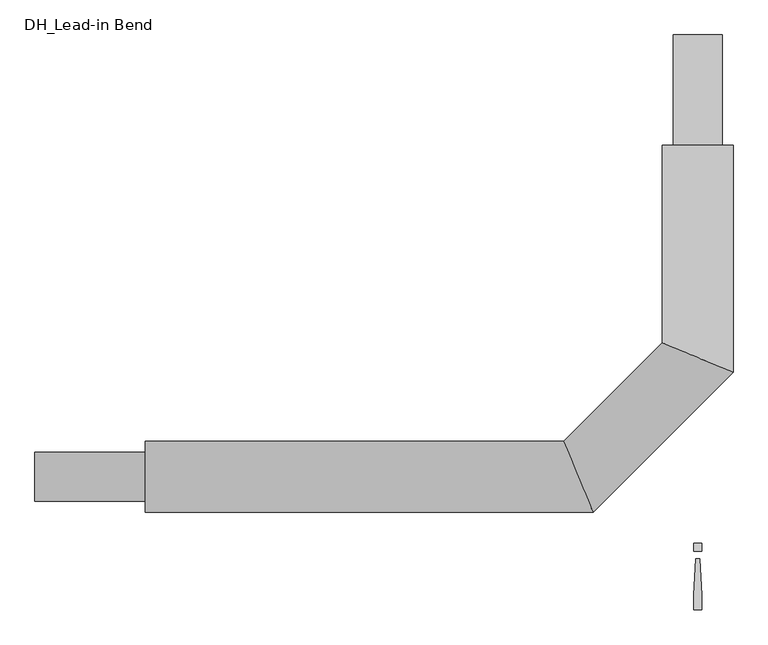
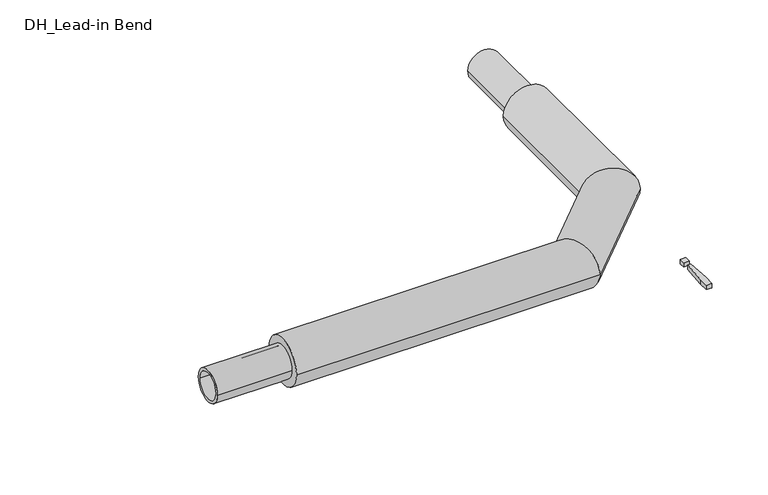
"""IFC4 building model written with IfcOpenShell, lengths in millimetres: pipe fitting geometry, DH_Lead-in Bend : INSULPEX UNO 11 Heating."""

import ifcopenshell
import ifcopenshell.guid

model = None  # the IFC model being written
_history = None  # IfcOwnerHistory: only IFC2X3 demands one
_inside = {}  # id of a spatial element -> (the spatial element, [elements in it])
_under = {}  # id of a project, library or spatial element -> (it, [spatial elements below it])
_declared = {}  # id of a project -> (the project, [libraries it declares])
_typed = {}  # id of a type object -> (the type object, [elements of that type])
_made_of = {}  # id of a material, layer set ... -> (it, [elements and type objects made of it])


def new_model(schema):
    """Start an empty IFC model of exactly this schema.

    Asked for "IFC4X3", IfcOpenShell would pick the latest addendum, in which some entities
    have other attributes; the version numbers below select the first issue.
    IFC2X3 requires an IfcOwnerHistory on every rooted entity: one is made here for all.
    """
    global model, _history
    if schema == "IFC4X3":
        model = ifcopenshell.file(schema_version=(4, 3, 0, 0))
    else:
        model = ifcopenshell.file(schema=schema)
    _inside.clear()
    _under.clear()
    _declared.clear()
    _typed.clear()
    _made_of.clear()
    _history = None
    if model.schema == "IFC2X3":
        org = make("IfcOrganization", Name="unknown")
        user = make(
            "IfcPersonAndOrganization",
            ThePerson=make("IfcPerson", FamilyName="unknown"),
            TheOrganization=org,
        )
        app = make(
            "IfcApplication",
            ApplicationDeveloper=org,
            Version="unknown",
            ApplicationFullName="unknown",
            ApplicationIdentifier="unknown",
        )
        _history = make(
            "IfcOwnerHistory",
            OwningUser=user,
            OwningApplication=app,
            ChangeAction="ADDED",
            CreationDate=0,
        )
    return model


def make(cls, **values):
    """One entity of the class cls with the attributes given. An attribute that is None is left unset."""
    return model.create_entity(
        cls, **{name: value for name, value in values.items() if value is not None}
    )


def rooted(cls, **values):
    """An entity with a GlobalId (a new one), such as an element, a storey or a relation."""
    return make(cls, GlobalId=ifcopenshell.guid.new(), OwnerHistory=_history, **values)


def si_unit(unit_type, name, prefix=None):
    """IfcSIUnit, for example si_unit("LENGTHUNIT", "METRE", prefix="MILLI")."""
    return make("IfcSIUnit", UnitType=unit_type, Prefix=prefix, Name=name)


def assignment(units):
    """IfcUnitAssignment: the units of a project."""
    return None if units is None else make("IfcUnitAssignment", Units=units)


def point(xyz):
    """IfcCartesianPoint."""
    return None if xyz is None else make("IfcCartesianPoint", Coordinates=xyz)


def direction(xyz):
    """IfcDirection."""
    return None if xyz is None else make("IfcDirection", DirectionRatios=xyz)


def frame(location, z_axis=None, x_axis=None):
    """IfcAxis2Placement3D, a coordinate frame: its origin and axes. An axis left out is left unset."""
    return make(
        "IfcAxis2Placement3D",
        Location=point(location),
        Axis=direction(z_axis),
        RefDirection=direction(x_axis),
    )


def frame_2d(location, x_axis=None):
    """IfcAxis2Placement2D, a coordinate frame in the plane: its origin and x axis."""
    return make(
        "IfcAxis2Placement2D", Location=point(location), RefDirection=direction(x_axis)
    )


def origin():
    """The frame at (0, 0, 0) with its axes left unset."""
    return frame((0.0, 0.0, 0.0))


def origin_with_axes():
    """The frame at (0, 0, 0) with the z axis (0, 0, 1) and the x axis (1, 0, 0) written out."""
    return frame((0.0, 0.0, 0.0), z_axis=(0.0, 0.0, 1.0), x_axis=(1.0, 0.0, 0.0))


def origin_2d():
    """The frame at (0, 0) in the plane with its x axis left unset."""
    return frame_2d((0.0, 0.0))


def place(relative_to, where):
    """IfcLocalPlacement: puts the frame where relative to a parent placement (None: the world)."""
    return make(
        "IfcLocalPlacement", PlacementRelTo=relative_to, RelativePlacement=where
    )


def context(
    kind, dimensions, precision=None, world=None, true_north=None, identifier=None
):
    """IfcGeometricRepresentationContext, for example the 3D "Model" context."""
    return make(
        "IfcGeometricRepresentationContext",
        ContextIdentifier=identifier,
        ContextType=kind,
        CoordinateSpaceDimension=dimensions,
        Precision=precision,
        WorldCoordinateSystem=world,
        TrueNorth=true_north,
    )


def project(units=None, contexts=None):
    """IfcProject with its units and contexts."""
    return rooted(
        "IfcProject",
        Name="project",
        RepresentationContexts=contexts,
        UnitsInContext=assignment(units),
    )


def spatial(cls, under=None, at=None, **own):
    """A site, building, storey or space (cls), placed at a placement, below another one or the project."""
    s = rooted(cls, ObjectPlacement=at, **own)
    if under is not None:
        _under.setdefault(under.id(), (under, []))[1].append(s)
    return s


def polyline(points):
    """IfcPolyline through the points."""
    return make("IfcPolyline", Points=[point(p) for p in points])


def circle_curve(where, radius):
    """IfcCircle in the frame where."""
    return make("IfcCircle", Position=where, Radius=radius)


def ellipse_curve(where, semi_axis1, semi_axis2):
    """IfcEllipse in the frame where."""
    return make(
        "IfcEllipse", Position=where, SemiAxis1=semi_axis1, SemiAxis2=semi_axis2
    )


def trimmed(basis, trim1, trim2, sense, master):
    """IfcTrimmedCurve: the piece of a basis curve between two trims."""
    return make(
        "IfcTrimmedCurve",
        BasisCurve=basis,
        Trim1=trim1,
        Trim2=trim2,
        SenseAgreement=sense,
        MasterRepresentation=master,
    )


def segment(curve, same_sense, transition):
    """IfcCompositeCurveSegment."""
    return make(
        "IfcCompositeCurveSegment",
        Transition=transition,
        SameSense=same_sense,
        ParentCurve=curve,
    )


def composite_curve(segments, self_intersect=None):
    """IfcCompositeCurve: segments joined end to end."""
    return make("IfcCompositeCurve", Segments=segments, SelfIntersect=self_intersect)


def outline(outer, holes=None, kind="AREA"):
    """IfcArbitraryClosedProfileDef: a profile drawn as a closed curve; with holes, ...WithVoids."""
    if holes is None:
        return make("IfcArbitraryClosedProfileDef", ProfileType=kind, OuterCurve=outer)
    return make(
        "IfcArbitraryProfileDefWithVoids",
        ProfileType=kind,
        OuterCurve=outer,
        InnerCurves=holes,
    )


def extrude(swept, where, along, depth):
    """IfcExtrudedAreaSolid: the profile swept, set in the frame where, extruded along a direction by depth."""
    return make(
        "IfcExtrudedAreaSolid",
        SweptArea=swept,
        Position=where,
        ExtrudedDirection=direction(along),
        Depth=depth,
    )


def shape(context_of_items, identifier, shape_type, items):
    """IfcShapeRepresentation: the items that make up one representation, for example the "Body"."""
    return make(
        "IfcShapeRepresentation",
        ContextOfItems=context_of_items,
        RepresentationIdentifier=identifier,
        RepresentationType=shape_type,
        Items=items,
    )


def source(mapping_origin, context_of_items, identifier, shape_type, items):
    """IfcRepresentationMap: a shape defined once, which mapped items show again and again."""
    return make(
        "IfcRepresentationMap",
        MappingOrigin=mapping_origin,
        MappedRepresentation=shape(context_of_items, identifier, shape_type, items),
    )


def transform(
    local_origin,
    x_axis=None,
    y_axis=None,
    z_axis=None,
    scale=None,
    scale2=None,
    scale3=None,
    uniform=True,
):
    """IfcCartesianTransformationOperator3D, or its non-uniform kind. x_axis, y_axis, z_axis: its Axis1, 2, 3."""
    if uniform:
        return make(
            "IfcCartesianTransformationOperator3D",
            Axis1=direction(x_axis),
            Axis2=direction(y_axis),
            LocalOrigin=point(local_origin),
            Scale=scale,
            Axis3=direction(z_axis),
        )
    return make(
        "IfcCartesianTransformationOperator3DnonUniform",
        Axis1=direction(x_axis),
        Axis2=direction(y_axis),
        LocalOrigin=point(local_origin),
        Scale=scale,
        Axis3=direction(z_axis),
        Scale2=scale2,
        Scale3=scale3,
    )


def mapped(mapping_source, mapping_target):
    """IfcMappedItem: shows the shape of a source again, moved by a transform."""
    return make(
        "IfcMappedItem", MappingSource=mapping_source, MappingTarget=mapping_target
    )


def made_of(thing, what):
    """Note that an element or type object is made of a material, layer set ...; save() writes the relation."""
    if what is not None:
        _made_of.setdefault(what.id(), (what, []))[1].append(thing)
    return thing


def element(
    cls,
    number,
    at=None,
    inside=None,
    cuts=None,
    type_object=None,
    material=None,
    context=None,
    identifier="Body",
    shape_type=None,
    held_by="IfcProductDefinitionShape",
    body=None,
    shapes=None,
    **own,
):
    """One element of the class cls, such as IfcWall. Its Tag is "e" and its number.

    at: its placement. inside: the storey or other place that contains it. cuts: it is an
    opening in that element (IfcRelVoidsElement). A single representation is given by context,
    identifier, shape_type and body (its items); several are given by shapes. held_by: the class
    of the entity that holds the representations. save() writes the other relations.
    """
    e = rooted(cls, Tag="e%d" % number, ObjectPlacement=at, **own)
    if body is not None:
        shapes = [shape(context, identifier, shape_type, body)]
    if shapes is not None:
        e.Representation = make(held_by, Representations=shapes)
    if inside is not None:
        _inside.setdefault(inside.id(), (inside, []))[1].append(e)
    if cuts is not None:
        rooted(
            "IfcRelVoidsElement", RelatingBuildingElement=cuts, RelatedOpeningElement=e
        )
    if type_object is not None:
        _typed.setdefault(type_object.id(), (type_object, []))[1].append(e)
    return made_of(e, material)


def aggregate(whole, parts):
    """IfcRelAggregates: a whole, such as a stair, and the parts it consists of."""
    return rooted("IfcRelAggregates", RelatingObject=whole, RelatedObjects=parts)


def save(model, path):
    """Write the relations noted so far, then the file.

    IfcRelAggregates (storeys below a building ...), IfcRelContainedInSpatialStructure (elements
    in a storey), IfcRelDefinesByType, IfcRelAssociatesMaterial and IfcRelDeclares: one each for
    every whole, place, type object, material and project.
    """
    for whole, parts in _under.values():
        aggregate(whole, parts)
    for where, things in _inside.values():
        rooted(
            "IfcRelContainedInSpatialStructure",
            RelatedElements=things,
            RelatingStructure=where,
        )
    for kind, things in _typed.values():
        rooted("IfcRelDefinesByType", RelatedObjects=things, RelatingType=kind)
    for what, things in _made_of.values():
        rooted("IfcRelAssociatesMaterial", RelatedObjects=things, RelatingMaterial=what)
    for by, libraries in _declared.values():
        rooted("IfcRelDeclares", RelatingContext=by, RelatedDefinitions=libraries)
    model.write(path)


def plane_surface(at):
    """IfcPlane: the flat surface through the origin of the frame at, square to its z axis."""
    return make("IfcPlane", Position=at)


def cylinder_surface(at, radius):
    """IfcCylindricalSurface: all points at the distance radius from the z axis of the frame at."""
    return make("IfcCylindricalSurface", Position=at, Radius=radius)


def advanced_brep(points, edges, surfaces, faces):
    """IfcAdvancedBrep: a solid bounded by faces that lie on surfaces and meet in shared edges.

    An edge is (start, end): straight between two places in points (the first is 0);
    or (start, end, curve); or (start, end, curve, False) where it runs against its curve.
    A face is (place in surfaces, loops), or (place, loops, False) where it looks against
    its surface's normal. A loop lists edges by number (the first is 1), with a minus sign
    where the edge is run from its end to its start. The first loop is the outer one.
    """
    corners = [point(p) for p in points]
    vertices = [make("IfcVertexPoint", VertexGeometry=c) for c in corners]
    made = []
    for start, end, *more in edges:
        made.append(
            make(
                "IfcEdgeCurve",
                EdgeStart=vertices[start],
                EdgeEnd=vertices[end],
                EdgeGeometry=more[0] if more else make("IfcPolyline", Points=[corners[start], corners[end]]),
                SameSense=more[1] if len(more) > 1 else True,
            )
        )
    hull = []
    for where, loops, *sense in faces:
        bounds = []
        for j, loop in enumerate(loops):
            ring = [make("IfcOrientedEdge", EdgeElement=made[abs(k) - 1], Orientation=k > 0) for k in loop]
            bounds.append(
                make(
                    "IfcFaceOuterBound" if j == 0 else "IfcFaceBound",
                    Bound=make("IfcEdgeLoop", EdgeList=ring),
                    Orientation=True,
                )
            )
        hull.append(make("IfcAdvancedFace", Bounds=bounds, FaceSurface=surfaces[where], SameSense=sense[0] if sense else True))
    return make("IfcAdvancedBrep", Outer=make("IfcClosedShell", CfsFaces=hull))


def dh_lead_in_bend_0193aba3(model_context):
    return source(origin(), model_context, "Body", "SolidModel", [
        advanced_brep(
        [(-1250.0, -80.0, 0.0), (-1250.0, 80.0, 0.0), (-236.862915, -80.0, 0.0), (-303.137085, 80.0, 0.0), (80.0, 750.0, 0.0), (-80.0, 750.0, 0.0), (-80.0, 303.137085, 0.0), (80.0, 236.862915, 0.0)],
        [
            (0, 1, circle_curve(frame((-1250.0, 0.0, 0.0), z_axis=(-1.0, 0.0, 0.0), x_axis=(0.0, 1.0, 0.0)), 80.0)),
            (1, 0, circle_curve(frame((-1250.0, 0.0, 0.0), z_axis=(-1.0, 0.0, 0.0), x_axis=(0.0, 1.0, 0.0)), 80.0)),
            (0, 2),
            (2, 3, ellipse_curve(frame((-270.0, 0.0, 0.0), z_axis=(-0.9238795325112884, -0.38268343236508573, 0.0), x_axis=(-0.3826834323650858, 0.9238795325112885, 0.0)), 86.591376, 80.0)),
            (3, 1),
            (3, 2, ellipse_curve(frame((-270.0, 0.0, 0.0), z_axis=(-0.9238795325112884, -0.38268343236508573, 0.0), x_axis=(-0.3826834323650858, 0.9238795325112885, 0.0)), 86.591376, 80.0)),
            (4, 5, circle_curve(frame((0.0, 750.0, 0.0), z_axis=(0.0, 1.0, 0.0), x_axis=(-1.0, 0.0, 0.0)), 80.0)),
            (5, 4, circle_curve(frame((0.0, 750.0, 0.0), z_axis=(0.0, 1.0, 0.0), x_axis=(-1.0, 0.0, 0.0)), 80.0)),
            (6, 7, ellipse_curve(frame((0.0, 270.0, 0.0), z_axis=(0.38268343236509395, 0.9238795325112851, 0.0), x_axis=(0.9238795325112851, -0.38268343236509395, 0.0)), 86.591376, 80.0)),
            (7, 4),
            (5, 6),
            (7, 6, ellipse_curve(frame((0.0, 270.0, 0.0), z_axis=(0.38268343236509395, 0.9238795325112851, 0.0), x_axis=(0.9238795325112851, -0.38268343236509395, 0.0)), 86.591376, 80.0)),
            (2, 7),
            (6, 3),
        ],
        [
            plane_surface(frame((-1250.0, 0.0, 0.0), z_axis=(-1.0, 0.0, 0.0), x_axis=(0.0, 0.0, 1.0))),
            cylinder_surface(frame((-1250.0, 0.0, 0.0), z_axis=(-1.0, 0.0, 0.0), x_axis=(0.0, 1.0, 0.0)), 80.0),
            plane_surface(frame((0.0, 750.0, 0.0), z_axis=(0.0, 1.0, 0.0), x_axis=(0.0, 0.0, 1.0))),
            cylinder_surface(frame((0.0, 270.0, 0.0), z_axis=(0.0, -1.0, 0.0), x_axis=(-1.0, 0.0, 0.0)), 80.0),
            cylinder_surface(frame((-270.0, 0.0, 0.0), z_axis=(-0.7071067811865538, -0.7071067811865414, 0.0), x_axis=(-0.7071067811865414, 0.7071067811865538, 0.0)), 80.0),
        ],
        [
            (0, [[1, 2]]),
            (1, [[-1, 3, 4, 5]]),
            (1, [[-2, -5, 6, -3]]),
            (2, [[7, 8]]),
            (3, [[9, 10, -8, 11]]),
            (3, [[12, -11, -7, -10]]),
            (4, [[-4, 13, -9, 14]]),
            (4, [[-6, -14, -12, -13]]),
        ],
    ),
        extrude(outline(polyline([(4.7088895, -185.3166715), (9.4177791, -266.6553807), (9.4177791, -300.6844652), (-9.4177791, -300.6844652), (-9.4177791, -266.6553807), (-4.7088895, -185.3166715), (4.7088895, -185.3166715)])), origin_with_axes(), (0.0, 0.0, 1.0), 15.0),
        extrude(outline(polyline([(9.4177791, -150.0), (9.4177791, -168.8355582), (-9.4177791, -168.8355582), (-9.4177791, -150.0), (9.4177791, -150.0)])), origin_with_axes(), (0.0, 0.0, 1.0), 15.0),
        extrude(outline(composite_curve([segment(trimmed(circle_curve(origin_2d(), 55.0), [point((-55.0, 0.0))], [point((55.0, 0.0))], False, "CARTESIAN"), True, "CONTINUOUS"), segment(trimmed(circle_curve(origin_2d(), 55.0), [point((55.0, 0.0))], [point((-55.0, 0.0))], False, "CARTESIAN"), True, "CONTINUOUS")], self_intersect=False), holes=[composite_curve([segment(trimmed(circle_curve(origin_2d(), 45.0), [point((-45.0, 0.0))], [point((45.0, 0.0))], True, "CARTESIAN"), True, "CONTINUOUS"), segment(trimmed(circle_curve(origin_2d(), 45.0), [point((45.0, 0.0))], [point((-45.0, 0.0))], True, "CARTESIAN"), True, "CONTINUOUS")], self_intersect=False)]), frame((-1500.0, 0.0, 0.0), z_axis=(1.0, 0.0, 0.0), x_axis=(0.0, 1.0, 0.0)), (0.0, 0.0, 1.0), 250.0),
        extrude(outline(composite_curve([segment(trimmed(circle_curve(origin_2d(), 55.0), [point((0.0, 55.0))], [point((0.0, -55.0))], False, "CARTESIAN"), True, "CONTINUOUS"), segment(trimmed(circle_curve(origin_2d(), 55.0), [point((0.0, -55.0))], [point((0.0, 55.0))], False, "CARTESIAN"), True, "CONTINUOUS")], self_intersect=False), holes=[composite_curve([segment(trimmed(circle_curve(origin_2d(), 45.0), [point((0.0, 45.0))], [point((0.0, -45.0))], True, "CARTESIAN"), True, "CONTINUOUS"), segment(trimmed(circle_curve(origin_2d(), 45.0), [point((0.0, -45.0))], [point((0.0, 45.0))], True, "CARTESIAN"), True, "CONTINUOUS")], self_intersect=False)]), frame((0.0, 750.0, 0.0), z_axis=(0.0, 1.0, 0.0), x_axis=(0.0, 0.0, 1.0)), (0.0, 0.0, 1.0), 250.0),
    ])


if __name__ == "__main__":
    model = new_model("IFC4")
    model_context = context("Model", 3, world=origin())
    ifc_project = project(units=[si_unit("LENGTHUNIT", "METRE", prefix="MILLI")], contexts=[model_context])
    site = spatial("IfcSite", under=ifc_project)
    building = spatial("IfcBuilding", under=site)
    placement = place(None, origin())
    dh_lead_in_bend_shape = dh_lead_in_bend_0193aba3(model_context)
    element("IfcPipeFitting", 1, ObjectType="DH_Lead-in Bend : INSULPEX UNO 11 Heating", at=placement, inside=building, context=model_context, shape_type="MappedRepresentation", body=[
        mapped(dh_lead_in_bend_shape, transform((0.0, 0.0, 0.0), x_axis=(1.0, 0.0, 0.0), y_axis=(0.0, 1.0, 0.0), z_axis=(0.0, 0.0, 1.0))),
    ])
    save(model, "model.ifc")
